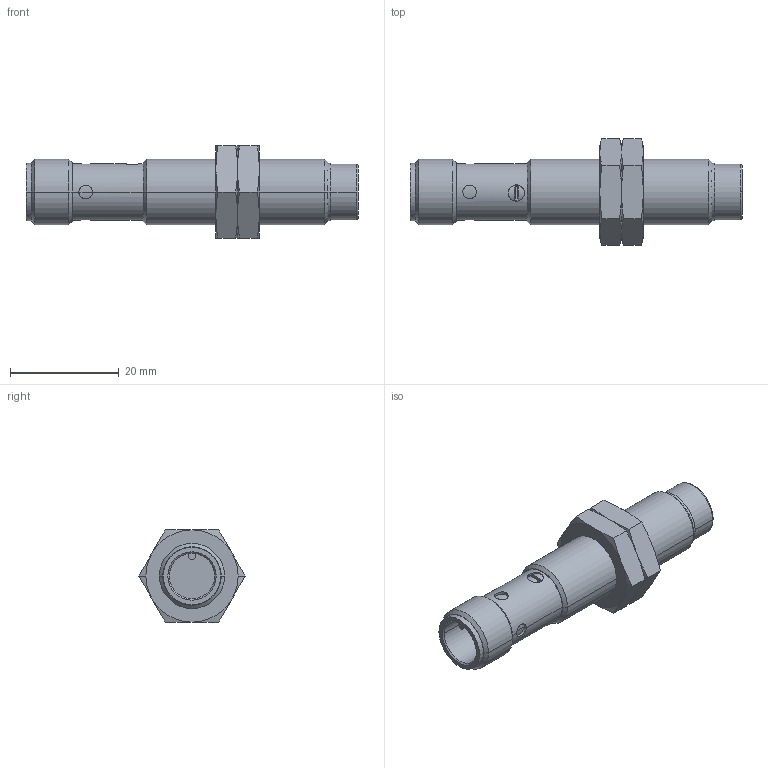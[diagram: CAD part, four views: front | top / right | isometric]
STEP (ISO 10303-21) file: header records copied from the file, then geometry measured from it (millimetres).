
FILE_DESCRIPTION( ( '' ), '1' );
FILE_NAME( '//partserver001.servicenet/client_exchange/iodir/jobs/output/wkb15158296_no3/STEP/kf5002_2_03.stp', '2009-03-19T07:18:50', ( '' ), ( '' ), ' ', ' ', ' ' );
FILE_SCHEMA( ( 'CONFIG_CONTROL_DESIGN' ) );
Length unit declared in the file: millimetre
Products named in the file (3): 1; 2; 3
Bounding box: 61.2 x 19.63 x 17 mm (x, y, z)
Volume: 7060.7 mm3; surface area: 4054.3 mm2
Topology: 3 solids, 4 shells, 127 faces, 279 edges, 169 vertices
Faces by surface type: cone 50, cylinder 39, plane 36, torus 2
Entity records: 3886 total; most frequent: CARTESIAN_POINT 1073, DIRECTION 570, ORIENTED_EDGE 558, EDGE_CURVE 279, AXIS2_PLACEMENT_3D 236, VERTEX_POINT 169, EDGE_LOOP 140, ADVANCED_FACE 127
